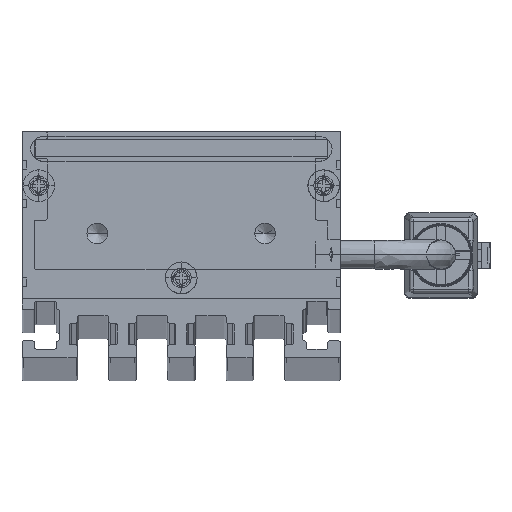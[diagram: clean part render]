
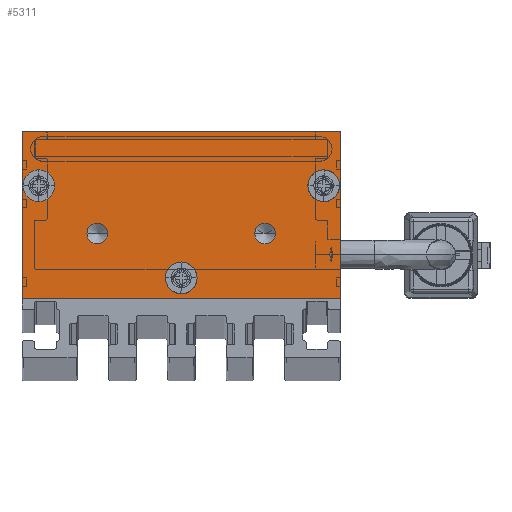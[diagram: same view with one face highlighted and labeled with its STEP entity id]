
A CAD part, top view. The second image highlights one B-rep face of the part: STEP entity #5311.
In plain terms, the highlighted planar face has unit normal (0, 0, 1) as drawn and (0, 0, -1) by its records, which use the part's own axes.
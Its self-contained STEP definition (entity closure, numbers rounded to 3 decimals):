
#179 = DIRECTION ( 'NONE',  ( 0., 0., -1. ) ) ;
#195 = PLANE ( 'NONE',  #11517 ) ;
#334 = DIRECTION ( 'NONE',  ( -1., 0., 0. ) ) ;
#385 = CARTESIAN_POINT ( 'NONE',  ( -1.9, 2.5, -2.5 ) ) ;
#412 = VERTEX_POINT ( 'NONE', #10085 ) ;
#1019 = EDGE_CURVE ( 'NONE', #6313, #3493, #13671, .T. ) ;
#1070 = CIRCLE ( 'NONE', #7963, 1.25 ) ;
#1280 = DIRECTION ( 'NONE',  ( 0., 0., 1. ) ) ;
#1426 = CIRCLE ( 'NONE', #5648, 1.9 ) ;
#1588 = EDGE_LOOP ( 'NONE', ( #13709, #4444 ) ) ;
#1757 = VERTEX_POINT ( 'NONE', #2579 ) ;
#1844 = CARTESIAN_POINT ( 'NONE',  ( -19., 20., -2.5 ) ) ;
#1984 = DIRECTION ( 'NONE',  ( 0., 0., -1. ) ) ;
#2025 = DIRECTION ( 'NONE',  ( -1., 0., 0. ) ) ;
#2061 = DIRECTION ( 'NONE',  ( 1., 0., 0. ) ) ;
#2282 = EDGE_CURVE ( 'NONE', #14834, #2506, #10785, .T. ) ;
#2384 = VECTOR ( 'NONE', #9312, 1000. ) ;
#2452 = EDGE_CURVE ( 'NONE', #14965, #2533, #6827, .T. ) ;
#2506 = VERTEX_POINT ( 'NONE', #1844 ) ;
#2518 = FACE_OUTER_BOUND ( 'NONE', #15671, .T. ) ;
#2533 = VERTEX_POINT ( 'NONE', #15794 ) ;
#2549 = AXIS2_PLACEMENT_3D ( 'NONE', #6732, #6803, #334 ) ;
#2579 = CARTESIAN_POINT ( 'NONE',  ( -8.75, 7.8, -2.5 ) ) ;
#2592 = ORIENTED_EDGE ( 'NONE', *, *, #8148, .F. ) ;
#2623 = DIRECTION ( 'NONE',  ( -1., 0., 0. ) ) ;
#2826 = DIRECTION ( 'NONE',  ( -1., 0., 0. ) ) ;
#3072 = CARTESIAN_POINT ( 'NONE',  ( 15.1, 13.5, -2.5 ) ) ;
#3111 = VECTOR ( 'NONE', #14668, 1000. ) ;
#3169 = VECTOR ( 'NONE', #3915, 1000. ) ;
#3483 = AXIS2_PLACEMENT_3D ( 'NONE', #14720, #9679, #4602 ) ;
#3493 = VERTEX_POINT ( 'NONE', #12077 ) ;
#3720 = DIRECTION ( 'NONE',  ( -1., 0., 0. ) ) ;
#3757 = LINE ( 'NONE', #15370, #3169 ) ;
#3915 = DIRECTION ( 'NONE',  ( 0., 1., 0. ) ) ;
#4029 = CARTESIAN_POINT ( 'NONE',  ( 19., 0., -2.5 ) ) ;
#4401 = VERTEX_POINT ( 'NONE', #5216 ) ;
#4444 = ORIENTED_EDGE ( 'NONE', *, *, #6063, .F. ) ;
#4557 = CARTESIAN_POINT ( 'NONE',  ( 0., 2.5, -2.5 ) ) ;
#4569 = CIRCLE ( 'NONE', #8568, 1.9 ) ;
#4602 = DIRECTION ( 'NONE',  ( -1., 0., 0. ) ) ;
#4616 = EDGE_LOOP ( 'NONE', ( #14603, #6183 ) ) ;
#5023 = EDGE_LOOP ( 'NONE', ( #13795, #9933 ) ) ;
#5104 = CIRCLE ( 'NONE', #14644, 1.9 ) ;
#5155 = ORIENTED_EDGE ( 'NONE', *, *, #12960, .F. ) ;
#5216 = CARTESIAN_POINT ( 'NONE',  ( -11.25, 7.8, -2.5 ) ) ;
#5311 = ADVANCED_FACE ( 'NONE', ( #12812, #11568, #15134, #8844, #11408, #2518 ), #195, .F. ) ;
#5648 = AXIS2_PLACEMENT_3D ( 'NONE', #6598, #9180, #7669 ) ;
#6063 = EDGE_CURVE ( 'NONE', #1757, #4401, #1070, .T. ) ;
#6183 = ORIENTED_EDGE ( 'NONE', *, *, #14858, .F. ) ;
#6282 = CARTESIAN_POINT ( 'NONE',  ( 19., 20., -2.5 ) ) ;
#6313 = VERTEX_POINT ( 'NONE', #13542 ) ;
#6481 = ORIENTED_EDGE ( 'NONE', *, *, #2282, .F. ) ;
#6598 = CARTESIAN_POINT ( 'NONE',  ( 17., 13.5, -2.5 ) ) ;
#6732 = CARTESIAN_POINT ( 'NONE',  ( -17., 13.5, -2.5 ) ) ;
#6735 = CIRCLE ( 'NONE', #12570, 1.25 ) ;
#6777 = CARTESIAN_POINT ( 'NONE',  ( 8.75, 7.8, -2.5 ) ) ;
#6803 = DIRECTION ( 'NONE',  ( 0., 0., -1. ) ) ;
#6827 = CIRCLE ( 'NONE', #16108, 1.25 ) ;
#6967 = CARTESIAN_POINT ( 'NONE',  ( -19., 20., -2.5 ) ) ;
#7513 = VERTEX_POINT ( 'NONE', #8146 ) ;
#7648 = CARTESIAN_POINT ( 'NONE',  ( -19., 0., -2.5 ) ) ;
#7669 = DIRECTION ( 'NONE',  ( -1., 0., 0. ) ) ;
#7792 = EDGE_CURVE ( 'NONE', #13804, #412, #5104, .T. ) ;
#7871 = VERTEX_POINT ( 'NONE', #7648 ) ;
#7963 = AXIS2_PLACEMENT_3D ( 'NONE', #8194, #13737, #11096 ) ;
#7966 = ORIENTED_EDGE ( 'NONE', *, *, #1019, .F. ) ;
#8025 = EDGE_LOOP ( 'NONE', ( #7966, #8627 ) ) ;
#8112 = ORIENTED_EDGE ( 'NONE', *, *, #9203, .F. ) ;
#8146 = CARTESIAN_POINT ( 'NONE',  ( 18.9, 13.5, -2.5 ) ) ;
#8148 = EDGE_CURVE ( 'NONE', #7871, #12642, #10868, .T. ) ;
#8194 = CARTESIAN_POINT ( 'NONE',  ( -10., 7.8, -2.5 ) ) ;
#8385 = DIRECTION ( 'NONE',  ( -1., 0., 0. ) ) ;
#8510 = CARTESIAN_POINT ( 'NONE',  ( 0., 2.5, -2.5 ) ) ;
#8547 = CARTESIAN_POINT ( 'NONE',  ( -19., 0., -2.5 ) ) ;
#8568 = AXIS2_PLACEMENT_3D ( 'NONE', #8949, #11274, #2623 ) ;
#8627 = ORIENTED_EDGE ( 'NONE', *, *, #11390, .F. ) ;
#8844 = FACE_BOUND ( 'NONE', #13901, .T. ) ;
#8926 = DIRECTION ( 'NONE',  ( 1., 0., 0. ) ) ;
#8949 = CARTESIAN_POINT ( 'NONE',  ( 17., 13.5, -2.5 ) ) ;
#9072 = CIRCLE ( 'NONE', #3483, 1.9 ) ;
#9180 = DIRECTION ( 'NONE',  ( 0., 0., -1. ) ) ;
#9203 = EDGE_CURVE ( 'NONE', #2533, #14965, #6735, .T. ) ;
#9312 = DIRECTION ( 'NONE',  ( 0., -1., 0. ) ) ;
#9327 = EDGE_CURVE ( 'NONE', #412, #13804, #14418, .T. ) ;
#9543 = CIRCLE ( 'NONE', #13773, 1.25 ) ;
#9622 = CARTESIAN_POINT ( 'NONE',  ( -19., 20., -2.5 ) ) ;
#9679 = DIRECTION ( 'NONE',  ( 0., 0., -1. ) ) ;
#9838 = DIRECTION ( 'NONE',  ( 0., 0., -1. ) ) ;
#9933 = ORIENTED_EDGE ( 'NONE', *, *, #9327, .F. ) ;
#9939 = AXIS2_PLACEMENT_3D ( 'NONE', #4557, #1984, #8385 ) ;
#10036 = CARTESIAN_POINT ( 'NONE',  ( 10., 7.8, -2.5 ) ) ;
#10085 = CARTESIAN_POINT ( 'NONE',  ( 1.9, 2.5, -2.5 ) ) ;
#10174 = CARTESIAN_POINT ( 'NONE',  ( 0., 0., -2.5 ) ) ;
#10242 = CARTESIAN_POINT ( 'NONE',  ( -10., 7.8, -2.5 ) ) ;
#10471 = VERTEX_POINT ( 'NONE', #3072 ) ;
#10515 = EDGE_CURVE ( 'NONE', #2506, #7871, #14268, .T. ) ;
#10785 = LINE ( 'NONE', #9622, #3111 ) ;
#10868 = LINE ( 'NONE', #8547, #11226 ) ;
#11096 = DIRECTION ( 'NONE',  ( -1., 0., 0. ) ) ;
#11226 = VECTOR ( 'NONE', #2061, 1000. ) ;
#11274 = DIRECTION ( 'NONE',  ( 0., 0., -1. ) ) ;
#11307 = CARTESIAN_POINT ( 'NONE',  ( 10., 7.8, -2.5 ) ) ;
#11310 = DIRECTION ( 'NONE',  ( -1., 0., 0. ) ) ;
#11390 = EDGE_CURVE ( 'NONE', #3493, #6313, #9072, .T. ) ;
#11408 = FACE_BOUND ( 'NONE', #1588, .T. ) ;
#11517 = AXIS2_PLACEMENT_3D ( 'NONE', #10174, #1280, #8926 ) ;
#11568 = FACE_BOUND ( 'NONE', #5023, .T. ) ;
#12077 = CARTESIAN_POINT ( 'NONE',  ( -15.1, 13.5, -2.5 ) ) ;
#12570 = AXIS2_PLACEMENT_3D ( 'NONE', #11307, #16364, #2826 ) ;
#12642 = VERTEX_POINT ( 'NONE', #4029 ) ;
#12812 = FACE_BOUND ( 'NONE', #4616, .T. ) ;
#12905 = EDGE_CURVE ( 'NONE', #4401, #1757, #9543, .T. ) ;
#12960 = EDGE_CURVE ( 'NONE', #12642, #14834, #3757, .T. ) ;
#13542 = CARTESIAN_POINT ( 'NONE',  ( -18.9, 13.5, -2.5 ) ) ;
#13671 = CIRCLE ( 'NONE', #2549, 1.9 ) ;
#13709 = ORIENTED_EDGE ( 'NONE', *, *, #12905, .F. ) ;
#13737 = DIRECTION ( 'NONE',  ( 0., 0., -1. ) ) ;
#13773 = AXIS2_PLACEMENT_3D ( 'NONE', #10242, #179, #11310 ) ;
#13795 = ORIENTED_EDGE ( 'NONE', *, *, #7792, .F. ) ;
#13804 = VERTEX_POINT ( 'NONE', #385 ) ;
#13901 = EDGE_LOOP ( 'NONE', ( #15985, #8112 ) ) ;
#14019 = ORIENTED_EDGE ( 'NONE', *, *, #10515, .F. ) ;
#14268 = LINE ( 'NONE', #6967, #2384 ) ;
#14418 = CIRCLE ( 'NONE', #9939, 1.9 ) ;
#14603 = ORIENTED_EDGE ( 'NONE', *, *, #16004, .F. ) ;
#14644 = AXIS2_PLACEMENT_3D ( 'NONE', #8510, #9838, #2025 ) ;
#14668 = DIRECTION ( 'NONE',  ( -1., 0., 0. ) ) ;
#14720 = CARTESIAN_POINT ( 'NONE',  ( -17., 13.5, -2.5 ) ) ;
#14834 = VERTEX_POINT ( 'NONE', #6282 ) ;
#14858 = EDGE_CURVE ( 'NONE', #7513, #10471, #4569, .T. ) ;
#14965 = VERTEX_POINT ( 'NONE', #6777 ) ;
#15082 = DIRECTION ( 'NONE',  ( 0., 0., -1. ) ) ;
#15134 = FACE_BOUND ( 'NONE', #8025, .T. ) ;
#15370 = CARTESIAN_POINT ( 'NONE',  ( 19., 20., -2.5 ) ) ;
#15671 = EDGE_LOOP ( 'NONE', ( #14019, #6481, #5155, #2592 ) ) ;
#15794 = CARTESIAN_POINT ( 'NONE',  ( 11.25, 7.8, -2.5 ) ) ;
#15985 = ORIENTED_EDGE ( 'NONE', *, *, #2452, .F. ) ;
#16004 = EDGE_CURVE ( 'NONE', #10471, #7513, #1426, .T. ) ;
#16108 = AXIS2_PLACEMENT_3D ( 'NONE', #10036, #15082, #3720 ) ;
#16364 = DIRECTION ( 'NONE',  ( 0., 0., -1. ) ) ;
